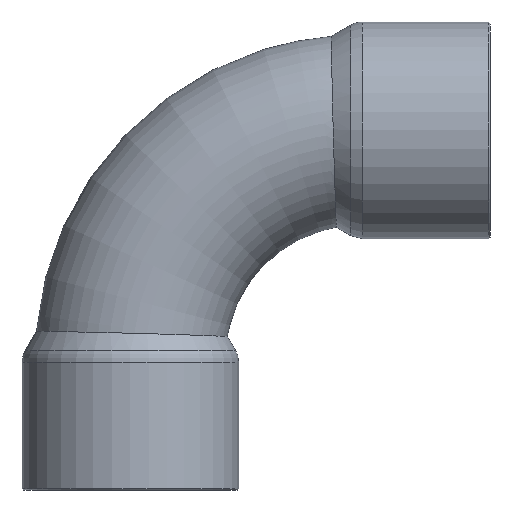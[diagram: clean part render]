
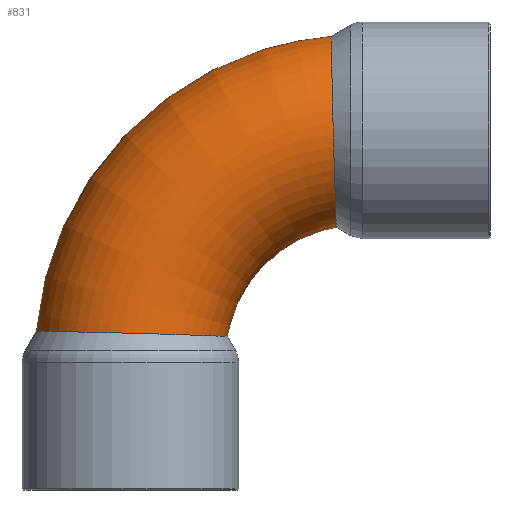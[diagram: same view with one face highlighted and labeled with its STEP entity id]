
A CAD part, left-side view. The second image highlights one B-rep face of the part: STEP entity #831.
In plain terms, the highlighted toroidal (fillet/blend) face has major radius 34.3 mm and minor radius 14.285 mm.
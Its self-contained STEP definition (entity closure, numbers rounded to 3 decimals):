
#444=CARTESIAN_POINT('',(0.0,4.143,48.408));
#445=VERTEX_POINT('',#444);
#446=CARTESIAN_POINT('',(0.0,4.143,48.408));
#447=CARTESIAN_POINT('',(0.974,4.143,48.408));
#448=CARTESIAN_POINT('',(1.945,4.141,48.308));
#449=CARTESIAN_POINT('',(3.835,4.134,47.916));
#450=CARTESIAN_POINT('',(4.75,4.128,47.628));
#451=CARTESIAN_POINT('',(7.365,4.108,46.504));
#452=CARTESIAN_POINT('',(8.935,4.087,45.421));
#453=CARTESIAN_POINT('',(11.565,4.033,42.705));
#454=CARTESIAN_POINT('',(12.598,4.,41.1));
#455=CARTESIAN_POINT('',(13.982,3.921,37.578));
#456=CARTESIAN_POINT('',(14.319,3.876,35.696));
#457=CARTESIAN_POINT('',(14.245,3.776,31.902));
#458=CARTESIAN_POINT('',(13.831,3.722,30.027));
#459=CARTESIAN_POINT('',(12.32,3.614,26.595));
#460=CARTESIAN_POINT('',(11.256,3.561,25.061));
#461=CARTESIAN_POINT('',(8.738,3.469,22.614));
#462=CARTESIAN_POINT('',(7.353,3.431,21.671));
#463=CARTESIAN_POINT('',(4.657,3.38,20.456));
#464=CARTESIAN_POINT('',(3.41,3.364,20.088));
#465=CARTESIAN_POINT('',(1.361,3.35,19.777));
#466=CARTESIAN_POINT('',(0.585,3.347,19.724));
#467=CARTESIAN_POINT('',(-1.002,3.348,19.745));
#468=CARTESIAN_POINT('',(-1.81,3.352,19.826));
#469=CARTESIAN_POINT('',(-4.121,3.371,20.257));
#470=CARTESIAN_POINT('',(-5.579,3.394,20.785));
#471=CARTESIAN_POINT('',(-8.576,3.463,22.456));
#472=CARTESIAN_POINT('',(-10.029,3.512,23.696));
#473=CARTESIAN_POINT('',(-12.316,3.614,26.599));
#474=CARTESIAN_POINT('',(-13.157,3.667,28.215));
#475=CARTESIAN_POINT('',(-14.181,3.768,31.624));
#476=CARTESIAN_POINT('',(-14.374,3.816,33.382));
#477=CARTESIAN_POINT('',(-14.12,3.904,36.874));
#478=CARTESIAN_POINT('',(-13.676,3.944,38.58));
#479=CARTESIAN_POINT('',(-12.187,4.014,41.765));
#480=CARTESIAN_POINT('',(-11.149,4.044,43.215));
#481=CARTESIAN_POINT('',(-8.572,4.092,45.685));
#482=CARTESIAN_POINT('',(-7.048,4.111,46.675));
#483=CARTESIAN_POINT('',(-3.671,4.136,48.05));
#484=CARTESIAN_POINT('',(-1.844,4.143,48.408));
#485=CARTESIAN_POINT('',(0.,4.143,48.408));
#486=B_SPLINE_CURVE_WITH_KNOTS('',3,(#446,#447,#448,#449,#450,#451,#452,#453,#454,#455,#456,#457,#458,#459,#460,#461,#462,#463,#464,#465,#466,#467,#468,#469,#470,#471,#472,#473,#474,#475,#476,#477,#478,#479,#480,#481,#482,#483,#484,#485),.UNSPECIFIED.,.T.,.U.,(4,2,2,2,2,2,2,2,2,2,2,2,2,2,2,2,2,2,2,4),(-9.017,-8.724,-8.437,-7.871,-7.303,-6.735,-6.165,-5.61,-5.111,-4.723,-4.489,-4.246,-3.784,-3.217,-2.675,-2.149,-1.624,-1.094,-0.553,0.0),.UNSPECIFIED.);
#487=EDGE_CURVE('',#445,#445,#486,.T.);
#688=CARTESIAN_POINT('',(0.,48.408,4.143));
#689=VERTEX_POINT('',#688);
#690=CARTESIAN_POINT('',(0.,48.408,4.143));
#691=CARTESIAN_POINT('',(-0.974,48.408,4.143));
#692=CARTESIAN_POINT('',(-1.945,48.308,4.141));
#693=CARTESIAN_POINT('',(-3.835,47.916,4.134));
#694=CARTESIAN_POINT('',(-4.75,47.628,4.128));
#695=CARTESIAN_POINT('',(-7.365,46.504,4.108));
#696=CARTESIAN_POINT('',(-8.935,45.421,4.087));
#697=CARTESIAN_POINT('',(-11.565,42.705,4.033));
#698=CARTESIAN_POINT('',(-12.598,41.1,4.));
#699=CARTESIAN_POINT('',(-13.982,37.578,3.921));
#700=CARTESIAN_POINT('',(-14.319,35.696,3.876));
#701=CARTESIAN_POINT('',(-14.245,31.902,3.776));
#702=CARTESIAN_POINT('',(-13.831,30.027,3.722));
#703=CARTESIAN_POINT('',(-12.32,26.595,3.614));
#704=CARTESIAN_POINT('',(-11.256,25.061,3.561));
#705=CARTESIAN_POINT('',(-8.738,22.614,3.469));
#706=CARTESIAN_POINT('',(-7.353,21.671,3.431));
#707=CARTESIAN_POINT('',(-4.657,20.456,3.38));
#708=CARTESIAN_POINT('',(-3.41,20.088,3.364));
#709=CARTESIAN_POINT('',(-1.361,19.777,3.35));
#710=CARTESIAN_POINT('',(-0.585,19.724,3.347));
#711=CARTESIAN_POINT('',(1.002,19.745,3.348));
#712=CARTESIAN_POINT('',(1.81,19.826,3.352));
#713=CARTESIAN_POINT('',(4.121,20.257,3.371));
#714=CARTESIAN_POINT('',(5.579,20.785,3.394));
#715=CARTESIAN_POINT('',(8.576,22.456,3.463));
#716=CARTESIAN_POINT('',(10.029,23.696,3.512));
#717=CARTESIAN_POINT('',(12.316,26.599,3.614));
#718=CARTESIAN_POINT('',(13.157,28.215,3.667));
#719=CARTESIAN_POINT('',(14.181,31.624,3.768));
#720=CARTESIAN_POINT('',(14.374,33.382,3.816));
#721=CARTESIAN_POINT('',(14.12,36.874,3.904));
#722=CARTESIAN_POINT('',(13.676,38.58,3.944));
#723=CARTESIAN_POINT('',(12.187,41.765,4.014));
#724=CARTESIAN_POINT('',(11.149,43.215,4.044));
#725=CARTESIAN_POINT('',(8.572,45.685,4.092));
#726=CARTESIAN_POINT('',(7.048,46.675,4.111));
#727=CARTESIAN_POINT('',(3.671,48.05,4.136));
#728=CARTESIAN_POINT('',(1.844,48.408,4.143));
#729=CARTESIAN_POINT('',(0.,48.408,4.143));
#730=B_SPLINE_CURVE_WITH_KNOTS('',3,(#690,#691,#692,#693,#694,#695,#696,#697,#698,#699,#700,#701,#702,#703,#704,#705,#706,#707,#708,#709,#710,#711,#712,#713,#714,#715,#716,#717,#718,#719,#720,#721,#722,#723,#724,#725,#726,#727,#728,#729),.UNSPECIFIED.,.T.,.U.,(4,2,2,2,2,2,2,2,2,2,2,2,2,2,2,2,2,2,2,4),(-9.017,-8.724,-8.437,-7.871,-7.303,-6.735,-6.165,-5.61,-5.111,-4.723,-4.489,-4.246,-3.784,-3.217,-2.675,-2.149,-1.624,-1.094,-0.553,0.0),.UNSPECIFIED.);
#731=EDGE_CURVE('',#689,#689,#730,.T.);
#820=CARTESIAN_POINT('',(0.0,0.0,0.0));
#821=DIRECTION('',(1.0,0.0,0.0));
#822=DIRECTION('',(0.0,0.0,-1.0));
#823=AXIS2_PLACEMENT_3D('',#820,#821,#822);
#824=TOROIDAL_SURFACE('',#823,34.3,14.285);
#825=ORIENTED_EDGE('',*,*,#487,.T.);
#826=EDGE_LOOP('',(#825));
#827=FACE_OUTER_BOUND('',#826,.T.);
#828=ORIENTED_EDGE('',*,*,#731,.T.);
#829=EDGE_LOOP('',(#828));
#830=FACE_BOUND('',#829,.T.);
#831=ADVANCED_FACE('',(#827,#830),#824,.T.);
